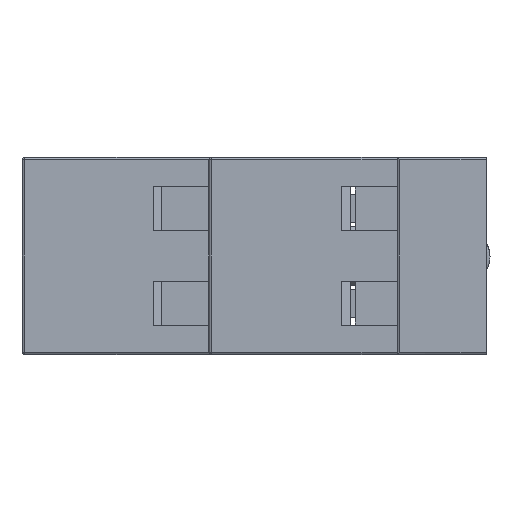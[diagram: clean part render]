
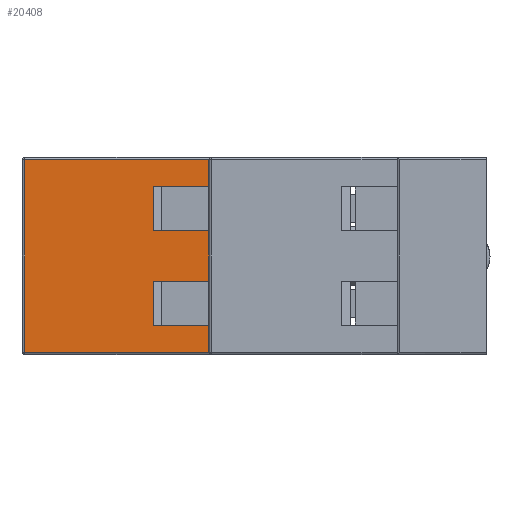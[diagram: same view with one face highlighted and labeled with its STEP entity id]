
A CAD part, left-side view. The second image highlights one B-rep face of the part: STEP entity #20408.
In plain terms, the highlighted planar face has unit normal (-1, 0, 0).
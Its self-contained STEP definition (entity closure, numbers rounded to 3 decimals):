
#1930=LINE('',#32513,#4471);
#1932=LINE('',#32517,#4473);
#1939=LINE('',#32534,#4480);
#1957=LINE('',#32576,#4498);
#1958=LINE('',#32578,#4499);
#1959=LINE('',#32580,#4500);
#1960=LINE('',#32582,#4501);
#1961=LINE('',#32584,#4502);
#1962=LINE('',#32586,#4503);
#1963=LINE('',#32588,#4504);
#1964=LINE('',#32590,#4505);
#1965=LINE('',#32591,#4506);
#4471=VECTOR('',#25154,10.);
#4473=VECTOR('',#25160,10.);
#4480=VECTOR('',#25183,10.);
#4498=VECTOR('',#25225,10.);
#4499=VECTOR('',#25226,10.);
#4500=VECTOR('',#25227,10.);
#4501=VECTOR('',#25228,10.);
#4502=VECTOR('',#25229,10.);
#4503=VECTOR('',#25230,10.);
#4504=VECTOR('',#25231,10.);
#4505=VECTOR('',#25232,10.);
#4506=VECTOR('',#25233,10.);
#5915=FACE_OUTER_BOUND('',#6959,.T.);
#6959=EDGE_LOOP('',(#15606,#15607,#15608,#15609,#15610,#15611,#15612,#15613,
#15614,#15615,#15616,#15617));
#8906=VERTEX_POINT('',#32430);
#8910=VERTEX_POINT('',#32445);
#8923=VERTEX_POINT('',#32512);
#8925=VERTEX_POINT('',#32533);
#8937=VERTEX_POINT('',#32575);
#8938=VERTEX_POINT('',#32577);
#8939=VERTEX_POINT('',#32579);
#8940=VERTEX_POINT('',#32581);
#8941=VERTEX_POINT('',#32583);
#8942=VERTEX_POINT('',#32585);
#8943=VERTEX_POINT('',#32587);
#8944=VERTEX_POINT('',#32589);
#11295=EDGE_CURVE('',#8923,#8910,#1930,.T.);
#11298=EDGE_CURVE('',#8910,#8906,#1932,.T.);
#11306=EDGE_CURVE('',#8906,#8925,#1939,.T.);
#11328=EDGE_CURVE('',#8937,#8923,#1957,.T.);
#11329=EDGE_CURVE('',#8937,#8938,#1958,.T.);
#11330=EDGE_CURVE('',#8938,#8939,#1959,.T.);
#11331=EDGE_CURVE('',#8940,#8939,#1960,.T.);
#11332=EDGE_CURVE('',#8941,#8940,#1961,.T.);
#11333=EDGE_CURVE('',#8941,#8942,#1962,.T.);
#11334=EDGE_CURVE('',#8942,#8943,#1963,.T.);
#11335=EDGE_CURVE('',#8944,#8943,#1964,.T.);
#11336=EDGE_CURVE('',#8925,#8944,#1965,.T.);
#15606=ORIENTED_EDGE('',*,*,#11306,.F.);
#15607=ORIENTED_EDGE('',*,*,#11298,.F.);
#15608=ORIENTED_EDGE('',*,*,#11295,.F.);
#15609=ORIENTED_EDGE('',*,*,#11328,.F.);
#15610=ORIENTED_EDGE('',*,*,#11329,.T.);
#15611=ORIENTED_EDGE('',*,*,#11330,.T.);
#15612=ORIENTED_EDGE('',*,*,#11331,.F.);
#15613=ORIENTED_EDGE('',*,*,#11332,.F.);
#15614=ORIENTED_EDGE('',*,*,#11333,.T.);
#15615=ORIENTED_EDGE('',*,*,#11334,.T.);
#15616=ORIENTED_EDGE('',*,*,#11335,.F.);
#15617=ORIENTED_EDGE('',*,*,#11336,.F.);
#18453=PLANE('',#21583);
#20408=ADVANCED_FACE('',(#5915),#18453,.T.);
#21583=AXIS2_PLACEMENT_3D('',#32574,#25223,#25224);
#25154=DIRECTION('',(0.,1.,0.));
#25160=DIRECTION('',(0.,0.,1.));
#25183=DIRECTION('',(0.,-1.,0.));
#25223=DIRECTION('center_axis',(-1.,0.,0.));
#25224=DIRECTION('ref_axis',(0.,0.,1.));
#25225=DIRECTION('',(0.,0.,-1.));
#25226=DIRECTION('',(0.,1.,0.));
#25227=DIRECTION('',(0.,0.,1.));
#25228=DIRECTION('',(0.,1.,0.));
#25229=DIRECTION('',(0.,0.,-1.));
#25230=DIRECTION('',(0.,1.,0.));
#25231=DIRECTION('',(0.,0.,1.));
#25232=DIRECTION('',(0.,1.,0.));
#25233=DIRECTION('',(0.,0.,-1.));
#32430=CARTESIAN_POINT('',(-13.5,21.3,15.3));
#32445=CARTESIAN_POINT('',(-13.5,21.3,0.2));
#32512=CARTESIAN_POINT('',(-13.5,6.8,0.2));
#32513=CARTESIAN_POINT('',(-13.5,4.921,0.2));
#32517=CARTESIAN_POINT('',(-13.5,21.3,0.));
#32533=CARTESIAN_POINT('',(-13.5,6.8,15.3));
#32534=CARTESIAN_POINT('',(-13.5,4.921,15.3));
#32574=CARTESIAN_POINT('Origin',(-13.5,7.,0.));
#32575=CARTESIAN_POINT('',(-13.5,6.8,2.25));
#32576=CARTESIAN_POINT('',(-13.5,6.8,2.25));
#32577=CARTESIAN_POINT('',(-13.5,11.143,2.25));
#32578=CARTESIAN_POINT('',(-13.5,-1.75,2.25));
#32579=CARTESIAN_POINT('',(-13.5,11.143,5.75));
#32580=CARTESIAN_POINT('',(-13.5,11.143,2.));
#32581=CARTESIAN_POINT('',(-13.5,6.8,5.75));
#32582=CARTESIAN_POINT('',(-13.5,-10.5,5.75));
#32583=CARTESIAN_POINT('',(-13.5,6.8,9.75));
#32584=CARTESIAN_POINT('',(-13.5,6.8,2.25));
#32585=CARTESIAN_POINT('',(-13.5,11.143,9.75));
#32586=CARTESIAN_POINT('',(-13.5,-10.5,9.75));
#32587=CARTESIAN_POINT('',(-13.5,11.143,13.25));
#32588=CARTESIAN_POINT('',(-13.5,11.143,5.75));
#32589=CARTESIAN_POINT('',(-13.5,6.8,13.25));
#32590=CARTESIAN_POINT('',(-13.5,-10.5,13.25));
#32591=CARTESIAN_POINT('',(-13.5,6.8,2.25));
